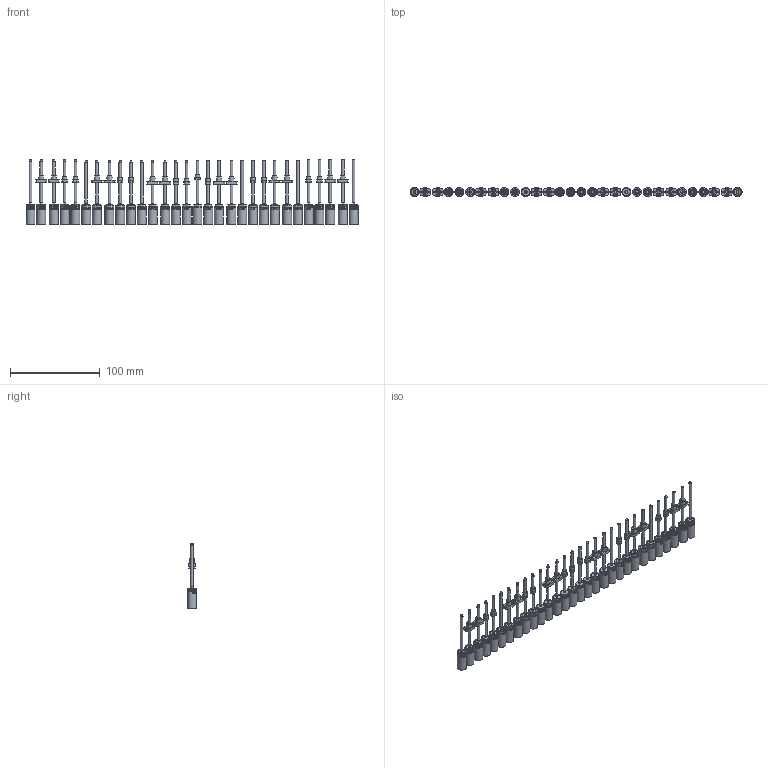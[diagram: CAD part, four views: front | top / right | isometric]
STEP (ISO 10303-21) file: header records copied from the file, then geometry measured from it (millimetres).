
FILE_DESCRIPTION(/* description */ (''),/* implementation_level */ '2;1');
FILE_NAME(/* name */ '10L-4stage_SL_standard_KWNx_KWS1_KFx.stp',/* time_stamp */ '2024-02-27T15:17:55+01:00',/* author */ ('DR. FRITZ FAULHABER GmbH & Co. KG'),/* organization */ ('DR. FRITZ FAULHABER GmbH & Co. KG'),/* preprocessor_version */ 'ST-DEVELOPER v19.3',/* originating_system */ 'SIEMENS PLM Software NX2212.4000',/* authorisation */ '');
FILE_SCHEMA (('AUTOMOTIVE_DESIGN { 1 0 10303 214 3 1 1 1 }'));
Length unit declared in the file: millimetre
Products named in the file (1): C_objects
Bounding box: 370 x 10 x 72.3 mm (x, y, z)
Volume: 63443.2 mm3; surface area: 46658.2 mm2
Topology: 30 solids, 30 shells, 3824 faces, 9409 edges, 6279 vertices
Faces by surface type: plane 2148, bspline 885, cylinder 741, cone 50
Full cylindrical faces by diameter (mm): 0.95 x40, 1.8 x24, 2 x15, 2.2 x30, 3 x54, 3.12 x30, 3.52 x30, 4.959 x30, 5 x12, 6 x42, 7 x20, 8.5 x10, 9.2 x10, 9.8 x30, 10 x70
Entity records: 178082 total; most frequent: CARTESIAN_POINT 80848, ORIENTED_EDGE 17548, DIRECTION 11833, EDGE_CURVE 8774, VERTEX_POINT 6146, EDGE_LOOP 5008, AXIS2_PLACEMENT_3D 4888, B_SPLINE_CURVE_WITH_KNOTS 4770
